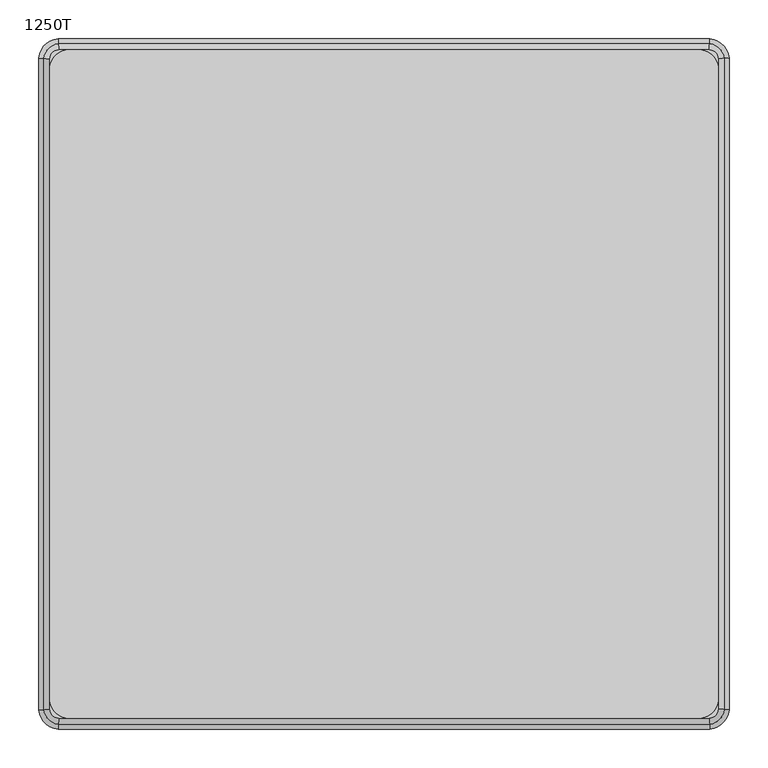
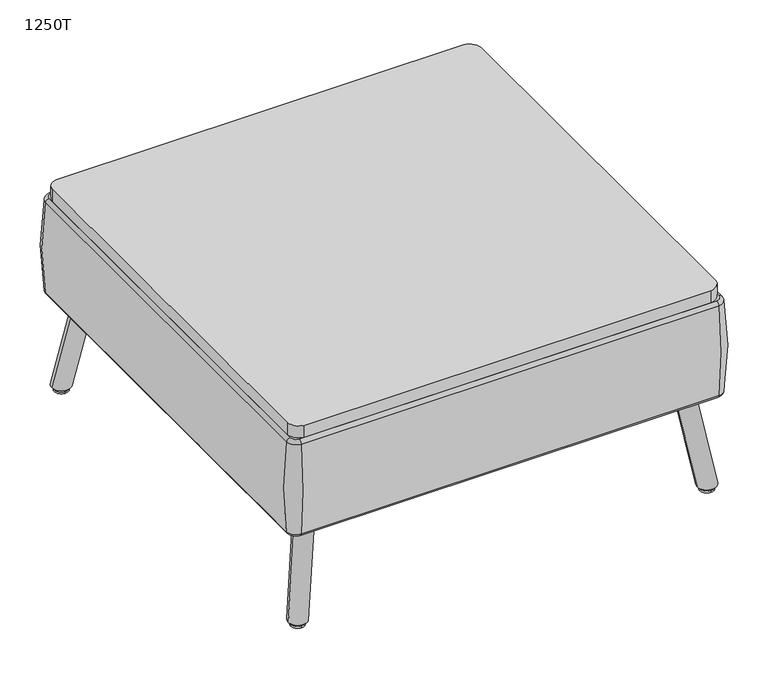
"""IFC4 building model written with IfcOpenShell, lengths in millimetres: furniture geometry, Laguna-Square_Ottomans-With_Legs-ERG : 1250T."""

from ifc_helpers import new_model, si_unit, point, frame, frame_2d, origin, place, context, project, spatial, polyline, circle_curve, ellipse_curve, trimmed, segment, composite_curve, outline, extrude, source, transform, mapped, element, save
from ifc_brep_helpers import plane_surface, cylinder_surface, revolved_surface, spline_surface, advanced_brep


def furniture_1250t_16d70e3b(model_context):
    return source(origin(), model_context, "Body", "SolidModel", [
        extrude(outline(composite_curve([segment(trimmed(circle_curve(frame_2d((-3953.8272587, 525.2409326)), 25.4), [point((-3928.6901244, 521.5961449))], [point((-3950.182471, 500.1037983))], False, "CARTESIAN"), True, "CONTINUOUS"), segment(trimmed(circle_curve(frame_2d((-4357.9421763, 6693.0859155)), 6206.3915024), [point((-3950.182471, 500.1037983))], [point((-4765.7018816, 500.1037983))], False, "CARTESIAN"), True, "CONTINUOUS"), segment(trimmed(circle_curve(frame_2d((-4762.0570939, 525.2409326)), 25.4), [point((-4765.7018816, 500.1037983))], [point((-4787.1942282, 521.5961449))], False, "CARTESIAN"), True, "CONTINUOUS"), segment(trimmed(circle_curve(frame_2d((1405.787889, 929.3558502)), 6206.3915024), [point((-4787.1942282, 521.5961449))], [point((-4787.1942282, 1337.1155555))], False, "CARTESIAN"), True, "CONTINUOUS"), segment(trimmed(circle_curve(frame_2d((-4762.0570939, 1333.4707677)), 25.4), [point((-4787.1942282, 1337.1155555))], [point((-4765.7018816, 1358.6079021))], False, "CARTESIAN"), True, "CONTINUOUS"), segment(trimmed(circle_curve(frame_2d((-4357.9421763, -4834.3742152)), 6206.3915024), [point((-4765.7018816, 1358.6079021))], [point((-3950.182471, 1358.6079021))], False, "CARTESIAN"), True, "CONTINUOUS"), segment(trimmed(circle_curve(frame_2d((-3953.8272587, 1333.4707677)), 25.4), [point((-3950.182471, 1358.6079021))], [point((-3928.6901244, 1337.1155555))], False, "CARTESIAN"), True, "CONTINUOUS"), segment(trimmed(circle_curve(frame_2d((-10121.6722416, 929.3558502)), 6206.3915024), [point((-3928.6901244, 1337.1155555))], [point((-3928.6901244, 521.5961449))], False, "CARTESIAN"), True, "CONTINUOUS")], self_intersect=False)), frame((0.0, 0.0, 406.4), z_axis=(0.0, 0.0, 1.0), x_axis=(1.0, 0.0, 0.0)), (0.0, 0.0, 1.0), 25.4),
        advanced_brep(
        [(-4775.5733418, 1358.6509177, 406.4), (-4787.2364147, 1346.9878465, 406.4), (-4787.2364147, 511.7238539, 406.4), (-4775.5733418, 500.0607827, 406.4), (-3940.3102369, 500.0608348, 406.4), (-3928.6471657, 511.723906, 406.4), (-3928.6471657, 1346.9877943, 406.4), (-3940.3102369, 1358.6508656, 406.4), (-4787.2364147, 1346.9878465, 203.2), (-4775.5733418, 1358.6509177, 203.2), (-3940.3102369, 1358.6508656, 203.2), (-3928.6471657, 1346.9877943, 203.2), (-3928.6471657, 511.723906, 203.2), (-3940.3102369, 500.0608348, 203.2), (-4775.5733418, 500.0607827, 203.2), (-4787.2364147, 511.7238539, 203.2), (-4794.7723063, 1347.4949959, 399.7887299), (-4776.0804902, 1366.1868094, 399.7887299), (-4776.0804902, 1366.1868094, 209.8112701), (-4794.7723063, 1347.4949959, 209.8112701), (-4794.7723063, 511.2167044, 209.8112701), (-4794.7723063, 511.2167044, 399.7887299), (-4776.0804902, 492.5248909, 209.8112701), (-4776.0804902, 492.5248909, 399.7887299), (-3939.8030877, 492.5249431, 209.8112701), (-3939.8030877, 492.5249431, 399.7887299), (-3921.111274, 511.2167567, 209.8112701), (-3921.111274, 511.2167567, 399.7887299), (-3921.111274, 1347.4949436, 209.8112701), (-3921.111274, 1347.4949436, 399.7887299), (-3939.8030877, 1366.1867573, 209.8112701), (-3939.8030877, 1366.1867573, 399.7887299)],
        [
            (0, 1, circle_curve(frame((-4774.7318104, 1346.1463133, 406.4), z_axis=(0.0, 0.0, 1.0), x_axis=(-0.0671458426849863, 0.9977431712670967, 0.0)), 12.5328889)),
            (1, 2, circle_curve(frame((1418.487889, 929.3558502, 406.4), z_axis=(0.0, 0.0, 1.0), x_axis=(-0.9977431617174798, 0.06714598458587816, 0.0)), 6219.7612991)),
            (2, 3, circle_curve(frame((-4774.7318104, 512.565387, 406.4), z_axis=(0.0, 0.0, 1.0), x_axis=(-0.9977431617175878, -0.06714598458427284, 0.0)), 12.5328889)),
            (3, 4, circle_curve(frame((-4357.9421763, 6705.7859155, 406.4), z_axis=(0.0, 0.0, 1.0), x_axis=(-0.06714584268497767, -0.9977431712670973, 0.0)), 6219.7620706)),
            (4, 5, circle_curve(frame((-3941.1517699, 512.565439, 406.4), z_axis=(0.0, 0.0, 1.0), x_axis=(0.06714596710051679, -0.9977431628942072, 0.0)), 12.5328889)),
            (5, 6, circle_curve(frame((-10134.3722416, 929.3558502, 406.4), z_axis=(0.0, 0.0, 1.0), x_axis=(0.9977431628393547, -0.06714596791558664, 0.0)), 6219.7620661)),
            (6, 7, circle_curve(frame((-3941.1517699, 1346.1462613, 406.4), z_axis=(0.0, 0.0, 1.0), x_axis=(0.9977431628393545, 0.06714596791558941, 0.0)), 12.5328889)),
            (7, 0, circle_curve(frame((-4357.9421763, -4847.0742152, 406.4), z_axis=(0.0, 0.0, 1.0), x_axis=(0.06714596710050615, 0.9977431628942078, 0.0)), 6219.7620706)),
            (8, 9, circle_curve(frame((-4774.7318104, 1346.1463133, 203.2), z_axis=(0.0, 0.0, -1.0), x_axis=(-0.0671458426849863, 0.9977431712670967, 0.0)), 12.5328889)),
            (9, 10, circle_curve(frame((-4357.9421763, -4847.0742152, 203.2), z_axis=(0.0, 0.0, -1.0), x_axis=(0.06714596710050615, 0.9977431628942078, 0.0)), 6219.7620706)),
            (10, 11, circle_curve(frame((-3941.1517699, 1346.1462613, 203.2), z_axis=(0.0, 0.0, -1.0), x_axis=(0.9977431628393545, 0.06714596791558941, 0.0)), 12.5328889)),
            (11, 12, circle_curve(frame((-10134.3722416, 929.3558502, 203.2), z_axis=(0.0, 0.0, -1.0), x_axis=(0.9977431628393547, -0.06714596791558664, 0.0)), 6219.7620661)),
            (12, 13, circle_curve(frame((-3941.1517699, 512.565439, 203.2), z_axis=(0.0, 0.0, -1.0), x_axis=(0.06714596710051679, -0.9977431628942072, 0.0)), 12.5328889)),
            (13, 14, circle_curve(frame((-4357.9421763, 6705.7859155, 203.2), z_axis=(0.0, 0.0, -1.0), x_axis=(-0.06714584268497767, -0.9977431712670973, 0.0)), 6219.7620706)),
            (14, 15, circle_curve(frame((-4774.7318104, 512.565387, 203.2), z_axis=(0.0, 0.0, -1.0), x_axis=(-0.9977431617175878, -0.06714598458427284, 0.0)), 12.5328889)),
            (15, 8, circle_curve(frame((1418.487889, 929.3558502, 203.2), z_axis=(0.0, 0.0, -1.0), x_axis=(-0.9977431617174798, 0.06714598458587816, 0.0)), 6219.7612991)),
            (16, 17, circle_curve(frame((-4774.7318104, 1346.1463133, 399.7887299), z_axis=(0.0, 0.0, -1.0), x_axis=(-0.0671458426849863, 0.9977431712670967, 0.0)), 20.0858264)),
            (17, 18, circle_curve(frame((-4728.3240206, 656.5570022, 304.8), z_axis=(-0.9977431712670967, -0.06714584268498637, 0.0), x_axis=(0.06714584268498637, -0.9977431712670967, 0.0)), 717.55)),
            (18, 19, circle_curve(frame((-4774.7318104, 1346.1463133, 209.8112701), z_axis=(0.0, 0.0, 1.0), x_axis=(-0.0671458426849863, 0.9977431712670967, 0.0)), 20.0858264)),
            (19, 16, circle_curve(frame((-4085.1425059, 1299.7384254, 304.8), z_axis=(0.06714598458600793, 0.997743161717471, 0.0), x_axis=(0.997743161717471, -0.06714598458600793, 0.0)), 717.55)),
            (16, 1, circle_curve(frame((-4787.2364147, 1346.9878465, 398.78), z_axis=(0.06714598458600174, 0.9977431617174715, 0.0), x_axis=(0.9977431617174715, -0.06714598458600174, 0.0)), 7.62)),
            (0, 17, circle_curve(frame((-4775.5733418, 1358.6509177, 398.78), z_axis=(-0.9977431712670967, -0.06714584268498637, 0.0), x_axis=(0.06714584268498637, -0.9977431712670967, 0.0)), 7.62)),
            (18, 9, circle_curve(frame((-4775.5733418, 1358.6509177, 210.82), z_axis=(-0.9977431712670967, -0.06714584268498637, 0.0), x_axis=(0.06714584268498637, -0.9977431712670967, 0.0)), 7.62)),
            (8, 19, circle_curve(frame((-4787.2364147, 1346.9878465, 210.82), z_axis=(0.06714598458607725, 0.9977431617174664, 0.0), x_axis=(0.9977431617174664, -0.06714598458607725, 0.0)), 7.62)),
            (19, 20, circle_curve(frame((1418.487889, 929.3558502, 209.8112701), z_axis=(0.0, 0.0, 1.0), x_axis=(-0.9977431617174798, 0.06714598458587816, 0.0)), 6227.3142365)),
            (20, 21, circle_curve(frame((-4085.1425059, 558.9732749, 304.8), z_axis=(-0.06714598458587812, 0.9977431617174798, 0.0), x_axis=(0.9977431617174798, 0.06714598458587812, 0.0)), 717.55)),
            (21, 16, circle_curve(frame((1418.487889, 929.3558502, 399.7887299), z_axis=(0.0, 0.0, -1.0), x_axis=(-0.9977431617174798, 0.06714598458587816, 0.0)), 6227.3142365)),
            (21, 2, circle_curve(frame((-4787.2364147, 511.7238539, 398.78), z_axis=(-0.06714598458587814, 0.9977431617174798, 0.0), x_axis=(0.9977431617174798, 0.06714598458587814, 0.0)), 7.62)),
            (15, 20, circle_curve(frame((-4787.2364147, 511.7238539, 210.82), z_axis=(-0.06714598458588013, 0.9977431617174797, 0.0), x_axis=(0.9977431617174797, 0.06714598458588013, 0.0)), 7.62)),
            (20, 22, circle_curve(frame((-4774.7318104, 512.565387, 209.8112701), z_axis=(0.0, 0.0, 1.0), x_axis=(-0.9977431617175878, -0.06714598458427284, 0.0)), 20.0858264)),
            (22, 23, circle_curve(frame((-4728.3240206, 1202.1546981, 304.8), z_axis=(-0.9977431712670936, 0.06714584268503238, 0.0), x_axis=(0.06714584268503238, 0.9977431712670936, 0.0)), 717.55)),
            (23, 21, circle_curve(frame((-4774.7318104, 512.565387, 399.7887299), z_axis=(0.0, 0.0, -1.0), x_axis=(-0.9977431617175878, -0.06714598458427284, 0.0)), 20.0858264)),
            (23, 3, circle_curve(frame((-4775.5733418, 500.0607827, 398.78), z_axis=(-0.9977431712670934, 0.0671458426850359, 0.0), x_axis=(0.0671458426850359, 0.9977431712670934, 0.0)), 7.62)),
            (14, 22, circle_curve(frame((-4775.5733418, 500.0607827, 210.82), z_axis=(-0.9977431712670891, 0.06714584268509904, 0.0), x_axis=(0.06714584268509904, 0.9977431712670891, 0.0)), 7.62)),
            (22, 24, circle_curve(frame((-4357.9421763, 6705.7859155, 209.8112701), z_axis=(0.0, 0.0, 1.0), x_axis=(-0.06714584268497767, -0.9977431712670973, 0.0)), 6227.315008)),
            (24, 25, circle_curve(frame((-3987.5596457, 1202.1547443, 304.8), z_axis=(-0.9977431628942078, -0.06714596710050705, 0.0), x_axis=(-0.06714596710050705, 0.9977431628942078, 0.0)), 717.55)),
            (25, 23, circle_curve(frame((-4357.9421763, 6705.7859155, 399.7887299), z_axis=(0.0, 0.0, -1.0), x_axis=(-0.06714584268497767, -0.9977431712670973, 0.0)), 6227.315008)),
            (25, 4, circle_curve(frame((-3940.3102369, 500.0608348, 398.78), z_axis=(-0.9977431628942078, -0.06714596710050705, 0.0), x_axis=(-0.06714596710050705, 0.9977431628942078, 0.0)), 7.62)),
            (13, 24, circle_curve(frame((-3940.3102369, 500.0608348, 210.82), z_axis=(-0.9977431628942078, -0.06714596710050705, 0.0), x_axis=(-0.06714596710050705, 0.9977431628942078, 0.0)), 7.62)),
            (24, 26, circle_curve(frame((-3941.1517699, 512.565439, 209.8112701), z_axis=(0.0, 0.0, 1.0), x_axis=(0.06714596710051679, -0.9977431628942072, 0.0)), 20.0858264)),
            (26, 27, circle_curve(frame((-4630.7410752, 558.9733154, 304.8), z_axis=(-0.06714596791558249, -0.997743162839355, 0.0), x_axis=(-0.997743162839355, 0.06714596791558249, 0.0)), 717.55)),
            (27, 25, circle_curve(frame((-3941.1517699, 512.565439, 399.7887299), z_axis=(0.0, 0.0, -1.0), x_axis=(0.06714596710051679, -0.9977431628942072, 0.0)), 20.0858264)),
            (27, 5, circle_curve(frame((-3928.6471657, 511.723906, 398.78), z_axis=(-0.06714596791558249, -0.997743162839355, 0.0), x_axis=(-0.997743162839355, 0.06714596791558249, 0.0)), 7.62)),
            (12, 26, circle_curve(frame((-3928.6471657, 511.723906, 210.82), z_axis=(-0.06714596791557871, -0.9977431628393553, 0.0), x_axis=(-0.9977431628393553, 0.06714596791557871, 0.0)), 7.62)),
            (26, 28, circle_curve(frame((-10134.3722416, 929.3558502, 209.8112701), z_axis=(0.0, 0.0, 1.0), x_axis=(0.9977431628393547, -0.06714596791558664, 0.0)), 6227.3150036)),
            (28, 29, circle_curve(frame((-4630.7410752, 1299.738385, 304.8), z_axis=(0.06714596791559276, -0.9977431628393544, 0.0), x_axis=(-0.9977431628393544, -0.06714596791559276, 0.0)), 717.55)),
            (29, 27, circle_curve(frame((-10134.3722416, 929.3558502, 399.7887299), z_axis=(0.0, 0.0, -1.0), x_axis=(0.9977431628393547, -0.06714596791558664, 0.0)), 6227.3150036)),
            (29, 6, circle_curve(frame((-3928.6471657, 1346.9877943, 398.78), z_axis=(0.06714596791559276, -0.9977431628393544, 0.0), x_axis=(-0.9977431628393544, -0.06714596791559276, 0.0)), 7.62)),
            (11, 28, circle_curve(frame((-3928.6471657, 1346.9877943, 210.82), z_axis=(0.06714596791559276, -0.9977431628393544, 0.0), x_axis=(-0.9977431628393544, -0.06714596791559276, 0.0)), 7.62)),
            (28, 30, circle_curve(frame((-3941.1517699, 1346.1462613, 209.8112701), z_axis=(0.0, 0.0, 1.0), x_axis=(0.9977431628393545, 0.06714596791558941, 0.0)), 20.0858264)),
            (30, 31, circle_curve(frame((-3987.5596457, 656.556956, 304.8), z_axis=(0.9977431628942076, -0.06714596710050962, 0.0), x_axis=(-0.06714596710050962, -0.9977431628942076, 0.0)), 717.55)),
            (31, 29, circle_curve(frame((-3941.1517699, 1346.1462613, 399.7887299), z_axis=(0.0, 0.0, -1.0), x_axis=(0.9977431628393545, 0.06714596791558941, 0.0)), 20.0858264)),
            (31, 7, circle_curve(frame((-3940.3102369, 1358.6508656, 398.78), z_axis=(0.9977431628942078, -0.06714596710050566, 0.0), x_axis=(-0.06714596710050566, -0.9977431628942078, 0.0)), 7.62)),
            (10, 30, circle_curve(frame((-3940.3102369, 1358.6508656, 210.82), z_axis=(0.9977431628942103, -0.06714596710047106, 0.0), x_axis=(-0.06714596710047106, -0.9977431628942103, 0.0)), 7.62)),
            (17, 31, circle_curve(frame((-4357.9421763, -4847.0742152, 399.7887299), z_axis=(0.0, 0.0, -1.0), x_axis=(0.06714596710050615, 0.9977431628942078, 0.0)), 6227.315008)),
            (30, 18, circle_curve(frame((-4357.9421763, -4847.0742152, 209.8112701), z_axis=(0.0, 0.0, 1.0), x_axis=(0.06714596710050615, 0.9977431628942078, 0.0)), 6227.315008)),
        ],
        [
            plane_surface(frame((-4762.1989215, 1346.1463133, 406.4), z_axis=(0.0, 0.0, 1.0), x_axis=(0.0, 1.0, 0.0))),
            plane_surface(frame((-4762.1989215, 1346.1463133, 203.2), z_axis=(0.0, 0.0, -1.0), x_axis=(0.0, -1.0, 0.0))),
            revolved_surface(trimmed(ellipse_curve(frame((-4728.3240206, 656.5570022, 304.8), z_axis=(0.9977431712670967, 0.06714584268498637, 0.0), x_axis=(0.06714584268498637, -0.9977431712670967, 0.0)), 717.55, 717.55), [point((-4776.0804902, 1366.1868094, 209.8112701))], [point((-4776.0804902, 1366.1868094, 399.7887299))], True, "CARTESIAN"), (-4774.7318104, 1346.1463133, 0.0), (0.0, 0.0, 1.0)),
            revolved_surface(trimmed(ellipse_curve(frame((-4775.5733418, 1358.6509177, 398.78), z_axis=(0.9977431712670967, 0.06714584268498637, 0.0), x_axis=(0.06714584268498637, -0.9977431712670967, 0.0)), 7.62, 7.62), [point((-4776.0804902, 1366.1868094, 399.7887299))], [point((-4775.5733418, 1358.6509177, 406.4))], True, "CARTESIAN"), (-4774.7318104, 1346.1463133, 0.0), (0.0, 0.0, 1.0)),
            revolved_surface(trimmed(ellipse_curve(frame((-4775.5733418, 1358.6509177, 210.82), z_axis=(0.9977431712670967, 0.06714584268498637, 0.0), x_axis=(0.06714584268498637, -0.9977431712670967, 0.0)), 7.62, 7.62), [point((-4775.5733418, 1358.6509177, 203.2))], [point((-4776.0804902, 1366.1868094, 209.8112701))], True, "CARTESIAN"), (-4774.7318104, 1346.1463133, 0.0), (0.0, 0.0, 1.0)),
            revolved_surface(trimmed(ellipse_curve(frame((-4085.1425059, 1299.7384254, 304.8), z_axis=(0.06714598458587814, 0.9977431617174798, 0.0), x_axis=(0.9977431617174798, -0.06714598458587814, 0.0)), 717.55, 717.55), [point((-4794.7723063, 1347.4949959, 209.8112701))], [point((-4794.7723063, 1347.4949959, 399.7887299))], True, "CARTESIAN"), (1418.487889, 929.3558502, 0.0), (0.0, 0.0, 1.0)),
            revolved_surface(trimmed(ellipse_curve(frame((-4787.2364147, 1346.9878465, 398.78), z_axis=(0.06714598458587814, 0.9977431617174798, 0.0), x_axis=(0.9977431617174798, -0.06714598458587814, 0.0)), 7.62, 7.62), [point((-4794.7723063, 1347.4949959, 399.7887299))], [point((-4787.2364147, 1346.9878465, 406.4))], True, "CARTESIAN"), (1418.487889, 929.3558502, 0.0), (0.0, 0.0, 1.0)),
            revolved_surface(trimmed(ellipse_curve(frame((-4787.2364147, 1346.9878465, 210.82), z_axis=(0.06714598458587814, 0.9977431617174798, 0.0), x_axis=(0.9977431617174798, -0.06714598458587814, 0.0)), 7.62, 7.62), [point((-4787.2364147, 1346.9878465, 203.2))], [point((-4794.7723063, 1347.4949959, 209.8112701))], True, "CARTESIAN"), (1418.487889, 929.3558502, 0.0), (0.0, 0.0, 1.0)),
            revolved_surface(trimmed(ellipse_curve(frame((-4085.1425059, 558.9732749, 304.8), z_axis=(-0.06714598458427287, 0.9977431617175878, 0.0), x_axis=(0.9977431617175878, 0.06714598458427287, 0.0)), 717.55, 717.55), [point((-4794.7723063, 511.2167044, 209.8112701))], [point((-4794.7723063, 511.2167044, 399.7887299))], True, "CARTESIAN"), (-4774.7318104, 512.565387, 0.0), (0.0, 0.0, 1.0)),
            revolved_surface(trimmed(ellipse_curve(frame((-4787.2364147, 511.7238539, 398.78), z_axis=(-0.06714598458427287, 0.9977431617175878, 0.0), x_axis=(0.9977431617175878, 0.06714598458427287, 0.0)), 7.62, 7.62), [point((-4794.7723063, 511.2167044, 399.7887299))], [point((-4787.2364147, 511.7238539, 406.4))], True, "CARTESIAN"), (-4774.7318104, 512.565387, 0.0), (0.0, 0.0, 1.0)),
            revolved_surface(trimmed(ellipse_curve(frame((-4787.2364147, 511.7238539, 210.82), z_axis=(-0.06714598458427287, 0.9977431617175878, 0.0), x_axis=(0.9977431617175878, 0.06714598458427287, 0.0)), 7.62, 7.62), [point((-4787.2364147, 511.7238539, 203.2))], [point((-4794.7723063, 511.2167044, 209.8112701))], True, "CARTESIAN"), (-4774.7318104, 512.565387, 0.0), (0.0, 0.0, 1.0)),
            revolved_surface(trimmed(ellipse_curve(frame((-4728.3240206, 1202.1546981, 304.8), z_axis=(-0.9977431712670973, 0.06714584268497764, 0.0), x_axis=(0.06714584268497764, 0.9977431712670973, 0.0)), 717.55, 717.55), [point((-4776.0804902, 492.5248909, 209.8112701))], [point((-4776.0804902, 492.5248909, 399.7887299))], True, "CARTESIAN"), (-4357.9421763, 6705.7859155, 0.0), (0.0, 0.0, 1.0)),
            revolved_surface(trimmed(ellipse_curve(frame((-4775.5733418, 500.0607827, 398.78), z_axis=(-0.9977431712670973, 0.06714584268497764, 0.0), x_axis=(0.06714584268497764, 0.9977431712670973, 0.0)), 7.62, 7.62), [point((-4776.0804902, 492.5248909, 399.7887299))], [point((-4775.5733418, 500.0607827, 406.4))], True, "CARTESIAN"), (-4357.9421763, 6705.7859155, 0.0), (0.0, 0.0, 1.0)),
            revolved_surface(trimmed(ellipse_curve(frame((-4775.5733418, 500.0607827, 210.82), z_axis=(-0.9977431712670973, 0.06714584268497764, 0.0), x_axis=(0.06714584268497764, 0.9977431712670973, 0.0)), 7.62, 7.62), [point((-4775.5733418, 500.0607827, 203.2))], [point((-4776.0804902, 492.5248909, 209.8112701))], True, "CARTESIAN"), (-4357.9421763, 6705.7859155, 0.0), (0.0, 0.0, 1.0)),
            revolved_surface(trimmed(ellipse_curve(frame((-3987.5596457, 1202.1547443, 304.8), z_axis=(-0.9977431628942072, -0.06714596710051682, 0.0), x_axis=(-0.06714596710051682, 0.9977431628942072, 0.0)), 717.55, 717.55), [point((-3939.8030877, 492.5249431, 209.8112701))], [point((-3939.8030877, 492.5249431, 399.7887299))], True, "CARTESIAN"), (-3941.1517699, 512.565439, 0.0), (0.0, 0.0, 1.0)),
            revolved_surface(trimmed(ellipse_curve(frame((-3940.3102369, 500.0608348, 398.78), z_axis=(-0.9977431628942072, -0.06714596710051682, 0.0), x_axis=(-0.06714596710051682, 0.9977431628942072, 0.0)), 7.62, 7.62), [point((-3939.8030877, 492.5249431, 399.7887299))], [point((-3940.3102369, 500.0608348, 406.4))], True, "CARTESIAN"), (-3941.1517699, 512.565439, 0.0), (0.0, 0.0, 1.0)),
            revolved_surface(trimmed(ellipse_curve(frame((-3940.3102369, 500.0608348, 210.82), z_axis=(-0.9977431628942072, -0.06714596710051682, 0.0), x_axis=(-0.06714596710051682, 0.9977431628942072, 0.0)), 7.62, 7.62), [point((-3940.3102369, 500.0608348, 203.2))], [point((-3939.8030877, 492.5249431, 209.8112701))], True, "CARTESIAN"), (-3941.1517699, 512.565439, 0.0), (0.0, 0.0, 1.0)),
            revolved_surface(trimmed(ellipse_curve(frame((-4630.7410752, 558.9733154, 304.8), z_axis=(-0.06714596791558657, -0.9977431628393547, 0.0), x_axis=(-0.9977431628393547, 0.06714596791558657, 0.0)), 717.55, 717.55), [point((-3921.111274, 511.2167567, 209.8112701))], [point((-3921.111274, 511.2167567, 399.7887299))], True, "CARTESIAN"), (-10134.3722416, 929.3558502, 0.0), (0.0, 0.0, 1.0)),
            revolved_surface(trimmed(ellipse_curve(frame((-3928.6471657, 511.723906, 398.78), z_axis=(-0.06714596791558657, -0.9977431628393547, 0.0), x_axis=(-0.9977431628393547, 0.06714596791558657, 0.0)), 7.62, 7.62), [point((-3921.111274, 511.2167567, 399.7887299))], [point((-3928.6471657, 511.723906, 406.4))], True, "CARTESIAN"), (-10134.3722416, 929.3558502, 0.0), (0.0, 0.0, 1.0)),
            revolved_surface(trimmed(ellipse_curve(frame((-3928.6471657, 511.723906, 210.82), z_axis=(-0.06714596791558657, -0.9977431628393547, 0.0), x_axis=(-0.9977431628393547, 0.06714596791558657, 0.0)), 7.62, 7.62), [point((-3928.6471657, 511.723906, 203.2))], [point((-3921.111274, 511.2167567, 209.8112701))], True, "CARTESIAN"), (-10134.3722416, 929.3558502, 0.0), (0.0, 0.0, 1.0)),
            revolved_surface(trimmed(ellipse_curve(frame((-4630.7410752, 1299.738385, 304.8), z_axis=(0.06714596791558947, -0.9977431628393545, 0.0), x_axis=(-0.9977431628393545, -0.06714596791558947, 0.0)), 717.55, 717.55), [point((-3921.111274, 1347.4949436, 209.8112701))], [point((-3921.111274, 1347.4949436, 399.7887299))], True, "CARTESIAN"), (-3941.1517699, 1346.1462613, 0.0), (0.0, 0.0, 1.0)),
            revolved_surface(trimmed(ellipse_curve(frame((-3928.6471657, 1346.9877943, 398.78), z_axis=(0.06714596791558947, -0.9977431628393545, 0.0), x_axis=(-0.9977431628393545, -0.06714596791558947, 0.0)), 7.62, 7.62), [point((-3921.111274, 1347.4949436, 399.7887299))], [point((-3928.6471657, 1346.9877943, 406.4))], True, "CARTESIAN"), (-3941.1517699, 1346.1462613, 0.0), (0.0, 0.0, 1.0)),
            revolved_surface(trimmed(ellipse_curve(frame((-3928.6471657, 1346.9877943, 210.82), z_axis=(0.06714596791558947, -0.9977431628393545, 0.0), x_axis=(-0.9977431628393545, -0.06714596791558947, 0.0)), 7.62, 7.62), [point((-3928.6471657, 1346.9877943, 203.2))], [point((-3921.111274, 1347.4949436, 209.8112701))], True, "CARTESIAN"), (-3941.1517699, 1346.1462613, 0.0), (0.0, 0.0, 1.0)),
            revolved_surface(trimmed(ellipse_curve(frame((-3987.5596457, 656.556956, 304.8), z_axis=(0.9977431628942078, -0.06714596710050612, 0.0), x_axis=(-0.06714596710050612, -0.9977431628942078, 0.0)), 717.55, 717.55), [point((-3939.8030877, 1366.1867573, 209.8112701))], [point((-3939.8030877, 1366.1867573, 399.7887299))], True, "CARTESIAN"), (-4357.9421763, -4847.0742152, 0.0), (0.0, 0.0, 1.0)),
            revolved_surface(trimmed(ellipse_curve(frame((-3940.3102369, 1358.6508656, 398.78), z_axis=(0.9977431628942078, -0.06714596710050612, 0.0), x_axis=(-0.06714596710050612, -0.9977431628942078, 0.0)), 7.62, 7.62), [point((-3939.8030877, 1366.1867573, 399.7887299))], [point((-3940.3102369, 1358.6508656, 406.4))], True, "CARTESIAN"), (-4357.9421763, -4847.0742152, 0.0), (0.0, 0.0, 1.0)),
            revolved_surface(trimmed(ellipse_curve(frame((-3940.3102369, 1358.6508656, 210.82), z_axis=(0.9977431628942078, -0.06714596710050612, 0.0), x_axis=(-0.06714596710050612, -0.9977431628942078, 0.0)), 7.62, 7.62), [point((-3940.3102369, 1358.6508656, 203.2))], [point((-3939.8030877, 1366.1867573, 209.8112701))], True, "CARTESIAN"), (-4357.9421763, -4847.0742152, 0.0), (0.0, 0.0, 1.0)),
        ],
        [
            (0, [[1, 2, 3, 4, 5, 6, 7, 8]]),
            (1, [[9, 10, 11, 12, 13, 14, 15, 16]]),
            (2, [[17, 18, 19, 20]]),
            (3, [[-17, 21, -1, 22]]),
            (4, [[-19, 23, -9, 24]]),
            (5, [[-20, 25, 26, 27]]),
            (6, [[-21, -27, 28, -2]]),
            (7, [[-24, -16, 29, -25]]),
            (8, [[-26, 30, 31, 32]]),
            (9, [[-28, -32, 33, -3]]),
            (10, [[-29, -15, 34, -30]]),
            (11, [[-31, 35, 36, 37]]),
            (12, [[-33, -37, 38, -4]]),
            (13, [[-34, -14, 39, -35]]),
            (14, [[-36, 40, 41, 42]]),
            (15, [[-38, -42, 43, -5]]),
            (16, [[-39, -13, 44, -40]]),
            (17, [[-41, 45, 46, 47]]),
            (18, [[-43, -47, 48, -6]]),
            (19, [[-44, -12, 49, -45]]),
            (20, [[-46, 50, 51, 52]]),
            (21, [[-48, -52, 53, -7]]),
            (22, [[-49, -11, 54, -50]]),
            (23, [[-18, 55, -51, 56]]),
            (24, [[-22, -8, -53, -55]]),
            (25, [[-23, -56, -54, -10]]),
        ],
    ),
        extrude(outline(composite_curve([segment(trimmed(circle_curve(frame_2d((-4730.6187381, 1345.1376413)), 5.08), [point((-4734.2108405, 1348.7297438))], [point((-4727.0266356, 1348.7297438))], False, "CARTESIAN"), True, "CONTINUOUS"), segment(polyline([(-4727.0266356, 1348.7297438), (-4698.289816, 1319.9929242)]), True, "CONTINUOUS"), segment(trimmed(circle_curve(frame_2d((-4701.8819185, 1316.4008217)), 5.08), [point((-4698.289816, 1319.9929242))], [point((-4698.289816, 1312.8087193))], False, "CARTESIAN"), True, "CONTINUOUS"), segment(polyline([(-4698.289816, 1312.8087193), (-4741.3950454, 1269.7034899)]), True, "CONTINUOUS"), segment(trimmed(circle_curve(frame_2d((-4744.9871479, 1273.2955923)), 5.08), [point((-4741.3950454, 1269.7034899))], [point((-4748.5792503, 1269.7034899))], False, "CARTESIAN"), True, "CONTINUOUS"), segment(polyline([(-4748.5792503, 1269.7034899), (-4777.3160699, 1298.4403095)]), True, "CONTINUOUS"), segment(trimmed(circle_curve(frame_2d((-4773.7239674, 1302.0324119)), 5.08), [point((-4777.3160699, 1298.4403095))], [point((-4777.3160699, 1305.6245144))], False, "CARTESIAN"), True, "CONTINUOUS"), segment(polyline([(-4777.3160699, 1305.6245144), (-4734.2108405, 1348.7297438)]), True, "CONTINUOUS")], self_intersect=False)), frame((0.0, 0.0, 200.66), z_axis=(0.0, 0.0, 1.0), x_axis=(1.0, 0.0, 0.0)), (0.0, 0.0, 1.0), 2.54),
        extrude(outline(composite_curve([segment(polyline([(-3981.6735121, 1348.7297438), (-3938.5682827, 1305.6245144)]), True, "CONTINUOUS"), segment(trimmed(circle_curve(frame_2d((-3942.1603852, 1302.0324119)), 5.08), [point((-3938.5682827, 1305.6245144))], [point((-3938.5682827, 1298.4403095))], False, "CARTESIAN"), True, "CONTINUOUS"), segment(polyline([(-3938.5682827, 1298.4403095), (-3967.3051023, 1269.7034899)]), True, "CONTINUOUS"), segment(trimmed(circle_curve(frame_2d((-3970.8972048, 1273.2955923)), 5.08), [point((-3967.3051023, 1269.7034899))], [point((-3974.4893072, 1269.7034899))], False, "CARTESIAN"), True, "CONTINUOUS"), segment(polyline([(-3974.4893072, 1269.7034899), (-4017.5945366, 1312.8087193)]), True, "CONTINUOUS"), segment(trimmed(circle_curve(frame_2d((-4014.0024341, 1316.4008217)), 5.08), [point((-4017.5945366, 1312.8087193))], [point((-4017.5945366, 1319.9929242))], False, "CARTESIAN"), True, "CONTINUOUS"), segment(polyline([(-4017.5945366, 1319.9929242), (-3988.857717, 1348.7297438)]), True, "CONTINUOUS"), segment(trimmed(circle_curve(frame_2d((-3985.2656145, 1345.1376413)), 5.08), [point((-3988.857717, 1348.7297438))], [point((-3981.6735121, 1348.7297438))], False, "CARTESIAN"), True, "CONTINUOUS")], self_intersect=False)), frame((0.0, 0.0, 200.66), z_axis=(0.0, 0.0, 1.0), x_axis=(1.0, 0.0, 0.0)), (0.0, 0.0, 1.0), 2.54),
        extrude(outline(composite_curve([segment(trimmed(circle_curve(frame_2d((-3942.1603852, 556.6792884)), 5.08), [point((-3938.5682827, 560.2713909))], [point((-3938.5682827, 553.087186))], False, "CARTESIAN"), True, "CONTINUOUS"), segment(polyline([(-3938.5682827, 553.087186), (-3981.6735121, 509.9819566)]), True, "CONTINUOUS"), segment(trimmed(circle_curve(frame_2d((-3985.2656145, 513.574059)), 5.08), [point((-3981.6735121, 509.9819566))], [point((-3988.857717, 509.9819566))], False, "CARTESIAN"), True, "CONTINUOUS"), segment(polyline([(-3988.857717, 509.9819566), (-4017.5945366, 538.7187762)]), True, "CONTINUOUS"), segment(trimmed(circle_curve(frame_2d((-4014.0024341, 542.3108786)), 5.08), [point((-4017.5945366, 538.7187762))], [point((-4017.5945366, 545.9029811))], False, "CARTESIAN"), True, "CONTINUOUS"), segment(polyline([(-4017.5945366, 545.9029811), (-3974.4893072, 589.0082105)]), True, "CONTINUOUS"), segment(trimmed(circle_curve(frame_2d((-3970.8972048, 585.416108)), 5.08), [point((-3974.4893072, 589.0082105))], [point((-3967.3051023, 589.0082105))], False, "CARTESIAN"), True, "CONTINUOUS"), segment(polyline([(-3967.3051023, 589.0082105), (-3938.5682827, 560.2713909)]), True, "CONTINUOUS")], self_intersect=False)), frame((0.0, 0.0, 200.66), z_axis=(0.0, 0.0, 1.0), x_axis=(1.0, 0.0, 0.0)), (0.0, 0.0, 1.0), 2.54),
        extrude(outline(composite_curve([segment(polyline([(-4741.3950454, 589.0082105), (-4698.289816, 545.9029811)]), True, "CONTINUOUS"), segment(trimmed(circle_curve(frame_2d((-4701.8819185, 542.3108786)), 5.08), [point((-4698.289816, 545.9029811))], [point((-4698.289816, 538.7187762))], False, "CARTESIAN"), True, "CONTINUOUS"), segment(polyline([(-4698.289816, 538.7187762), (-4727.0266356, 509.9819566)]), True, "CONTINUOUS"), segment(trimmed(circle_curve(frame_2d((-4730.6187381, 513.574059)), 5.08), [point((-4727.0266356, 509.9819566))], [point((-4734.2108405, 509.9819566))], False, "CARTESIAN"), True, "CONTINUOUS"), segment(polyline([(-4734.2108405, 509.9819566), (-4777.3160699, 553.087186)]), True, "CONTINUOUS"), segment(trimmed(circle_curve(frame_2d((-4773.7239674, 556.6792884)), 5.08), [point((-4777.3160699, 553.087186))], [point((-4777.3160699, 560.2713909))], False, "CARTESIAN"), True, "CONTINUOUS"), segment(polyline([(-4777.3160699, 560.2713909), (-4748.5792503, 589.0082105)]), True, "CONTINUOUS"), segment(trimmed(circle_curve(frame_2d((-4744.9871479, 585.416108)), 5.08), [point((-4748.5792503, 589.0082105))], [point((-4741.3950454, 589.0082105))], False, "CARTESIAN"), True, "CONTINUOUS")], self_intersect=False)), frame((0.0, 0.0, 200.66), z_axis=(0.0, 0.0, 1.0), x_axis=(1.0, 0.0, 0.0)), (0.0, 0.0, 1.0), 2.54),
        advanced_brep(
        [(-4767.5048436, 524.036231, 10.16), (-4767.5048436, 515.5501347, 10.16), (-4767.5048436, 515.5501347, 3.9615026), (-4767.5048436, 524.036231, 3.9615026), (-4767.5048436, 505.7148294, 3.9615026), (-4767.5048436, 533.8715363, 3.9615026), (-4767.5048436, 505.7148294, 0.0), (-4767.5048436, 533.8715363, 0.0), (-4767.5048436, 519.7931828, 0.0), (-4767.5048436, 519.7931828, 10.16)],
        [
            (0, 1, circle_curve(frame((-4767.5048436, 519.7931828, 10.16), z_axis=(0.0, 0.0, -1.0), x_axis=(0.0, -1.0, 0.0)), 4.2430482)),
            (1, 2),
            (2, 3, circle_curve(frame((-4767.5048436, 519.7931828, 3.9615026), z_axis=(0.0, 0.0, 1.0), x_axis=(0.0, -1.0, 0.0)), 4.2430482)),
            (3, 0),
            (1, 0, circle_curve(frame((-4767.5048436, 519.7931828, 10.16), z_axis=(0.0, 0.0, -1.0), x_axis=(0.0, -1.0, 0.0)), 4.2430482)),
            (3, 2, circle_curve(frame((-4767.5048436, 519.7931828, 3.9615026), z_axis=(0.0, 0.0, 1.0), x_axis=(0.0, -1.0, 0.0)), 4.2430482)),
            (2, 4),
            (4, 5, circle_curve(frame((-4767.5048436, 519.7931828, 3.9615026), z_axis=(0.0, 0.0, 1.0), x_axis=(0.0, -1.0, 0.0)), 14.0783534)),
            (5, 3),
            (5, 4, circle_curve(frame((-4767.5048436, 519.7931828, 3.9615026), z_axis=(0.0, 0.0, 1.0), x_axis=(0.0, -1.0, 0.0)), 14.0783534)),
            (4, 6),
            (6, 7, circle_curve(frame((-4767.5048436, 519.7931828, 0.0), z_axis=(0.0, 0.0, 1.0), x_axis=(0.0, -1.0, 0.0)), 14.0783534)),
            (7, 5),
            (7, 6, circle_curve(frame((-4767.5048436, 519.7931828, 0.0), z_axis=(0.0, 0.0, 1.0), x_axis=(0.0, -1.0, 0.0)), 14.0783534)),
            (6, 8),
            (8, 7),
            (9, 1),
            (0, 9),
        ],
        [
            cylinder_surface(frame((-4767.5048436, 519.7931828, 20.9252452), z_axis=(0.0, 0.0, 1.0), x_axis=(0.0, -1.0, 0.0)), 4.2430482),
            plane_surface(frame((-4767.5048436, 519.7931828, 3.9615026), z_axis=(0.0, 0.0, 1.0), x_axis=(0.0, -1.0, 0.0))),
            cylinder_surface(frame((-4767.5048436, 519.7931828, 20.9252452), z_axis=(0.0, 0.0, 1.0), x_axis=(0.0, -1.0, 0.0)), 14.0783534),
            plane_surface(frame((-4767.5048436, 519.7931828, 0.0), z_axis=(0.0, 0.0, -1.0), x_axis=(0.0, -1.0, 0.0))),
            plane_surface(frame((-4767.5048436, 519.7931828, 10.16), z_axis=(0.0, 0.0, 1.0), x_axis=(0.0, -1.0, 0.0))),
        ],
        [
            (0, [[1, 2, 3, 4]]),
            (0, [[5, -4, 6, -2]]),
            (1, [[-3, 7, 8, 9]]),
            (1, [[-6, -9, 10, -7]]),
            (2, [[-8, 11, 12, 13]]),
            (2, [[-10, -13, 14, -11]]),
            (3, [[-12, 15, 16]]),
            (3, [[-14, -16, -15]]),
            (4, [[17, -1, 18]]),
            (4, [[-18, -5, -17]]),
        ],
    ),
        advanced_brep(
        [(-4767.5048436, 1343.1615656, 3.9615026), (-4767.5048436, 1334.6754693, 3.9615026), (-4767.5048436, 1324.8401641, 3.9615026), (-4767.5048436, 1352.9968709, 3.9615026), (-4767.5048436, 1324.8401641, 0.0), (-4767.5048436, 1352.9968709, 0.0), (-4767.5048436, 1338.9185175, 0.0), (-4767.5048436, 1338.9185175, 10.16), (-4767.5048436, 1334.6754693, 10.16), (-4767.5048436, 1343.1615656, 10.16)],
        [
            (0, 1, circle_curve(frame((-4767.5048436, 1338.9185175, 3.9615026), z_axis=(0.0, 0.0, -1.0), x_axis=(0.0, -1.0, 0.0)), 4.2430481)),
            (1, 2),
            (2, 3, circle_curve(frame((-4767.5048436, 1338.9185175, 3.9615026), z_axis=(0.0, 0.0, 1.0), x_axis=(0.0, -1.0, 0.0)), 14.0783534)),
            (3, 0),
            (1, 0, circle_curve(frame((-4767.5048436, 1338.9185175, 3.9615026), z_axis=(0.0, 0.0, -1.0), x_axis=(0.0, -1.0, 0.0)), 4.2430481)),
            (3, 2, circle_curve(frame((-4767.5048436, 1338.9185175, 3.9615026), z_axis=(0.0, 0.0, 1.0), x_axis=(0.0, -1.0, 0.0)), 14.0783534)),
            (2, 4),
            (4, 5, circle_curve(frame((-4767.5048436, 1338.9185175, 0.0), z_axis=(0.0, 0.0, 1.0), x_axis=(0.0, -1.0, 0.0)), 14.0783534)),
            (5, 3),
            (5, 4, circle_curve(frame((-4767.5048436, 1338.9185175, 0.0), z_axis=(0.0, 0.0, 1.0), x_axis=(0.0, -1.0, 0.0)), 14.0783534)),
            (4, 6),
            (6, 5),
            (7, 8),
            (8, 9, circle_curve(frame((-4767.5048436, 1338.9185175, 10.16), z_axis=(0.0, 0.0, 1.0), x_axis=(0.0, -1.0, 0.0)), 4.2430481)),
            (9, 7),
            (9, 8, circle_curve(frame((-4767.5048436, 1338.9185175, 10.16), z_axis=(0.0, 0.0, 1.0), x_axis=(0.0, -1.0, 0.0)), 4.2430481)),
            (8, 1),
            (0, 9),
        ],
        [
            plane_surface(frame((-4767.5048436, 1338.9185175, 3.9615026), z_axis=(0.0, 0.0, 1.0), x_axis=(0.0, -1.0, 0.0))),
            cylinder_surface(frame((-4767.5048436, 1338.9185175, 29.21), z_axis=(0.0, 0.0, 1.0), x_axis=(0.0, -1.0, 0.0)), 14.0783534),
            plane_surface(frame((-4767.5048436, 1338.9185175, 0.0), z_axis=(0.0, 0.0, -1.0), x_axis=(0.0, -1.0, 0.0))),
            plane_surface(frame((-4767.5048436, 1338.9185175, 10.16), z_axis=(0.0, 0.0, 1.0), x_axis=(0.0, -1.0, 0.0))),
            cylinder_surface(frame((-4767.5048436, 1338.9185175, 29.21), z_axis=(0.0, 0.0, 1.0), x_axis=(0.0, -1.0, 0.0)), 4.2430481),
        ],
        [
            (0, [[1, 2, 3, 4]]),
            (0, [[5, -4, 6, -2]]),
            (1, [[-3, 7, 8, 9]]),
            (1, [[-6, -9, 10, -7]]),
            (2, [[-8, 11, 12]]),
            (2, [[-10, -12, -11]]),
            (3, [[13, 14, 15]]),
            (3, [[-15, 16, -13]]),
            (4, [[-14, 17, -1, 18]]),
            (4, [[-16, -18, -5, -17]]),
        ],
    ),
        advanced_brep(
        [(-3948.379509, 524.036231, 3.9615026), (-3948.379509, 515.5501347, 3.9615026), (-3948.379509, 515.5501347, 10.16), (-3948.379509, 524.036231, 10.16), (-3948.379509, 533.8715363, 3.9615026), (-3948.379509, 505.7148294, 3.9615026), (-3948.379509, 533.8715363, 0.0), (-3948.379509, 505.7148294, 0.0), (-3948.379509, 519.7931828, 0.0), (-3948.379509, 519.7931828, 10.16)],
        [
            (0, 1, circle_curve(frame((-3948.379509, 519.7931828, 3.9615026), z_axis=(0.0, 0.0, 1.0), x_axis=(0.0, -1.0, 0.0)), 4.2430482)),
            (1, 2),
            (2, 3, circle_curve(frame((-3948.379509, 519.7931828, 10.16), z_axis=(0.0, 0.0, -1.0), x_axis=(0.0, -1.0, 0.0)), 4.2430482)),
            (3, 0),
            (1, 0, circle_curve(frame((-3948.379509, 519.7931828, 3.9615026), z_axis=(0.0, 0.0, 1.0), x_axis=(0.0, -1.0, 0.0)), 4.2430482)),
            (3, 2, circle_curve(frame((-3948.379509, 519.7931828, 10.16), z_axis=(0.0, 0.0, -1.0), x_axis=(0.0, -1.0, 0.0)), 4.2430482)),
            (4, 5, circle_curve(frame((-3948.379509, 519.7931828, 3.9615026), z_axis=(0.0, 0.0, 1.0), x_axis=(0.0, -1.0, 0.0)), 14.0783534)),
            (5, 1),
            (0, 4),
            (5, 4, circle_curve(frame((-3948.379509, 519.7931828, 3.9615026), z_axis=(0.0, 0.0, 1.0), x_axis=(0.0, -1.0, 0.0)), 14.0783534)),
            (6, 7, circle_curve(frame((-3948.379509, 519.7931828, 0.0), z_axis=(0.0, 0.0, 1.0), x_axis=(0.0, -1.0, 0.0)), 14.0783534)),
            (7, 5),
            (4, 6),
            (7, 6, circle_curve(frame((-3948.379509, 519.7931828, 0.0), z_axis=(0.0, 0.0, 1.0), x_axis=(0.0, -1.0, 0.0)), 14.0783534)),
            (8, 7),
            (6, 8),
            (2, 9),
            (9, 3),
        ],
        [
            cylinder_surface(frame((-3948.379509, 519.7931828, 20.9252452), z_axis=(0.0, 0.0, -1.0), x_axis=(0.0, -1.0, 0.0)), 4.2430482),
            plane_surface(frame((-3948.379509, 519.7931828, 3.9615026), z_axis=(0.0, 0.0, 1.0), x_axis=(0.0, -1.0, 0.0))),
            cylinder_surface(frame((-3948.379509, 519.7931828, 20.9252452), z_axis=(0.0, 0.0, -1.0), x_axis=(0.0, -1.0, 0.0)), 14.0783534),
            plane_surface(frame((-3948.379509, 519.7931828, 0.0), z_axis=(0.0, 0.0, -1.0), x_axis=(0.0, -1.0, 0.0))),
            plane_surface(frame((-3948.379509, 519.7931828, 10.16), z_axis=(0.0, 0.0, 1.0), x_axis=(0.0, -1.0, 0.0))),
        ],
        [
            (0, [[1, 2, 3, 4]]),
            (0, [[5, -4, 6, -2]]),
            (1, [[7, 8, -1, 9]]),
            (1, [[10, -9, -5, -8]]),
            (2, [[11, 12, -7, 13]]),
            (2, [[14, -13, -10, -12]]),
            (3, [[15, -11, 16]]),
            (3, [[-16, -14, -15]]),
            (4, [[-3, 17, 18]]),
            (4, [[-6, -18, -17]]),
        ],
    ),
        advanced_brep(
        [(-3948.379509, 1352.9968709, 3.9615026), (-3948.379509, 1324.8401641, 3.9615026), (-3948.379509, 1334.6754693, 3.9615026), (-3948.379509, 1343.1615656, 3.9615026), (-3948.379509, 1352.9968709, 0.0), (-3948.379509, 1324.8401641, 0.0), (-3948.379509, 1338.9185175, 0.0), (-3948.379509, 1343.1615656, 10.16), (-3948.379509, 1334.6754693, 10.16), (-3948.379509, 1338.9185175, 10.16)],
        [
            (0, 1, circle_curve(frame((-3948.379509, 1338.9185175, 3.9615026), z_axis=(0.0, 0.0, 1.0), x_axis=(0.0, -1.0, 0.0)), 14.0783534)),
            (1, 2),
            (2, 3, circle_curve(frame((-3948.379509, 1338.9185175, 3.9615026), z_axis=(0.0, 0.0, -1.0), x_axis=(0.0, -1.0, 0.0)), 4.2430481)),
            (3, 0),
            (1, 0, circle_curve(frame((-3948.379509, 1338.9185175, 3.9615026), z_axis=(0.0, 0.0, 1.0), x_axis=(0.0, -1.0, 0.0)), 14.0783534)),
            (3, 2, circle_curve(frame((-3948.379509, 1338.9185175, 3.9615026), z_axis=(0.0, 0.0, -1.0), x_axis=(0.0, -1.0, 0.0)), 4.2430481)),
            (4, 5, circle_curve(frame((-3948.379509, 1338.9185175, 0.0), z_axis=(0.0, 0.0, 1.0), x_axis=(0.0, -1.0, 0.0)), 14.0783534)),
            (5, 1),
            (0, 4),
            (5, 4, circle_curve(frame((-3948.379509, 1338.9185175, 0.0), z_axis=(0.0, 0.0, 1.0), x_axis=(0.0, -1.0, 0.0)), 14.0783534)),
            (6, 5),
            (4, 6),
            (7, 8, circle_curve(frame((-3948.379509, 1338.9185175, 10.16), z_axis=(0.0, 0.0, 1.0), x_axis=(0.0, -1.0, 0.0)), 4.2430481)),
            (8, 9),
            (9, 7),
            (8, 7, circle_curve(frame((-3948.379509, 1338.9185175, 10.16), z_axis=(0.0, 0.0, 1.0), x_axis=(0.0, -1.0, 0.0)), 4.2430481)),
            (2, 8),
            (7, 3),
        ],
        [
            plane_surface(frame((-3948.379509, 1338.9185175, 3.9615026), z_axis=(0.0, 0.0, 1.0), x_axis=(0.0, -1.0, 0.0))),
            cylinder_surface(frame((-3948.379509, 1338.9185175, 29.21), z_axis=(0.0, 0.0, -1.0), x_axis=(0.0, -1.0, 0.0)), 14.0783534),
            plane_surface(frame((-3948.379509, 1338.9185175, 0.0), z_axis=(0.0, 0.0, -1.0), x_axis=(0.0, -1.0, 0.0))),
            plane_surface(frame((-3948.379509, 1338.9185175, 10.16), z_axis=(0.0, 0.0, 1.0), x_axis=(0.0, -1.0, 0.0))),
            cylinder_surface(frame((-3948.379509, 1338.9185175, 29.21), z_axis=(0.0, 0.0, -1.0), x_axis=(0.0, -1.0, 0.0)), 4.2430481),
        ],
        [
            (0, [[1, 2, 3, 4]]),
            (0, [[5, -4, 6, -2]]),
            (1, [[7, 8, -1, 9]]),
            (1, [[10, -9, -5, -8]]),
            (2, [[11, -7, 12]]),
            (2, [[-12, -10, -11]]),
            (3, [[13, 14, 15]]),
            (3, [[16, -15, -14]]),
            (4, [[-3, 17, -13, 18]]),
            (4, [[-6, -18, -16, -17]]),
        ],
    ),
        advanced_brep(
        [(-4718.748749, 549.5091293, 203.2), (-4756.8290453, 549.5091293, 203.2), (-4748.3889568, 519.8309276, 10.16), (-4786.5452409, 519.8309276, 10.16)],
        [
            (0, 1, circle_curve(frame((-4737.7888971, 549.5091293, 203.2), z_axis=(0.0, 0.0, 1.0), x_axis=(-1.0, 0.0, 0.0)), 19.0401482)),
            (1, 0, circle_curve(frame((-4737.7888971, 549.5091293, 203.2), z_axis=(0.0, 0.0, 1.0), x_axis=(-1.0, 0.0, 0.0)), 19.0401482)),
            (2, 3, circle_curve(frame((-4767.4670988, 519.8309276, 10.16), z_axis=(0.0, 0.0, -1.0), x_axis=(-1.0, 0.0, 0.0)), 19.078142)),
            (3, 2, circle_curve(frame((-4767.4670988, 519.8309276, 10.16), z_axis=(0.0, 0.0, -1.0), x_axis=(-1.0, 0.0, 0.0)), 19.078142)),
            (2, 0),
            (1, 3),
        ],
        [
            plane_surface(frame((-4737.7888971, 549.5091293, 203.2), z_axis=(0.0, 0.0, 1.0), x_axis=(0.0, 1.0, 0.0))),
            plane_surface(frame((-4767.4670988, 519.8309276, 10.16), z_axis=(0.0, 0.0, -1.0), x_axis=(0.0, 1.0, 0.0))),
            spline_surface(2, 1, [[(-4786.5452409, 519.8309276, 10.16), (-4756.8290453, 549.5091293, 203.2)], [(-4786.5452409, 500.75278549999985, 10.16), (-4756.8290453, 530.4689811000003, 203.2)], [(-4767.4670988, 500.75278549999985, 10.16), (-4737.7888971, 530.4689811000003, 203.2)], [(-4748.3889567, 500.7527853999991, 10.16), (-4718.7487489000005, 530.4689810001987, 203.2)], [(-4748.3889568, 519.8309276, 10.16), (-4718.748749, 549.5091293, 203.2)]], [3, 2, 3], [2, 2], [0.0, 1.0, 2.0], [0.0, 1.0], weights=[[1.0, 1.0], [0.7071067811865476, 0.7071067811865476], [1.0, 1.0], [0.7071067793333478, 0.7071067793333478], [1.0, 1.0]]),
            spline_surface(2, 1, [[(-4748.3889568, 519.8309276, 10.16), (-4718.748749, 549.5091293, 203.2)], [(-4748.3889568, 538.9090695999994, 10.16), (-4718.748749, 568.5492773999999, 203.2)], [(-4767.4670988, 538.9090695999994, 10.16), (-4737.7888971, 568.5492773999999, 203.2)], [(-4786.545240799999, 538.9090694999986, 10.16), (-4756.8290452, 568.5492773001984, 203.2)], [(-4786.5452409, 519.8309276, 10.16), (-4756.8290453, 549.5091293, 203.2)]], [3, 2, 3], [2, 2], [0.0, 1.0, 2.0], [0.0, 1.0], weights=[[1.0, 1.0], [0.7071067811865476, 0.7071067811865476], [1.0, 1.0], [0.7071067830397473, 0.7071067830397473], [1.0, 1.0]]),
        ],
        [
            (0, [[1, 2]]),
            (1, [[3, 4]]),
            (2, [[-3, 5, -2, 6]]),
            (3, [[-4, -6, -1, -5]]),
        ],
    ),
        advanced_brep(
        [(-4718.748749, 1309.202571, 203.2), (-4756.8290453, 1309.202571, 203.2), (-4748.3889568, 1338.8807727, 10.16), (-4786.5452409, 1338.8807727, 10.16)],
        [
            (0, 1, circle_curve(frame((-4737.7888971, 1309.202571, 203.2), z_axis=(0.0, 0.0, 1.0), x_axis=(-1.0, 0.0, 0.0)), 19.0401482)),
            (1, 0, circle_curve(frame((-4737.7888971, 1309.202571, 203.2), z_axis=(0.0, 0.0, 1.0), x_axis=(-1.0, 0.0, 0.0)), 19.0401482)),
            (2, 3, circle_curve(frame((-4767.4670988, 1338.8807727, 10.16), z_axis=(0.0, 0.0, -1.0), x_axis=(-1.0, 0.0, 0.0)), 19.078142)),
            (3, 2, circle_curve(frame((-4767.4670988, 1338.8807727, 10.16), z_axis=(0.0, 0.0, -1.0), x_axis=(-1.0, 0.0, 0.0)), 19.078142)),
            (3, 1),
            (0, 2),
        ],
        [
            plane_surface(frame((-4737.7888971, 1309.202571, 203.2), z_axis=(0.0, 0.0, 1.0), x_axis=(0.0, 1.0, 0.0))),
            plane_surface(frame((-4767.4670988, 1338.8807727, 10.16), z_axis=(0.0, 0.0, -1.0), x_axis=(0.0, 1.0, 0.0))),
            spline_surface(2, 1, [[(-4748.3889568, 1338.8807727, 10.16), (-4718.748749, 1309.202571, 203.2)], [(-4748.3889568, 1357.9589146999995, 10.16), (-4718.748749, 1328.2427191, 203.2)], [(-4767.4670988, 1357.9589146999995, 10.16), (-4737.7888971, 1328.2427191, 203.2)], [(-4786.545240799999, 1357.9589145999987, 10.16), (-4756.8290452, 1328.2427190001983, 203.2)], [(-4786.5452409, 1338.8807727, 10.16), (-4756.8290453, 1309.202571, 203.2)]], [3, 2, 3], [2, 2], [0.0, 1.0, 2.0], [0.0, 1.0], weights=[[1.0, 1.0], [0.7071067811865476, 0.7071067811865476], [1.0, 1.0], [0.7071067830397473, 0.7071067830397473], [1.0, 1.0]]),
            spline_surface(2, 1, [[(-4786.5452409, 1338.8807727, 10.16), (-4756.8290453, 1309.202571, 203.2)], [(-4786.5452409, 1319.8026306, 10.16), (-4756.8290453, 1290.1624228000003, 203.2)], [(-4767.4670988, 1319.8026306, 10.16), (-4737.7888971, 1290.1624228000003, 203.2)], [(-4748.3889567, 1319.8026304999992, 10.16), (-4718.7487489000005, 1290.1624227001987, 203.2)], [(-4748.3889568, 1338.8807727, 10.16), (-4718.748749, 1309.202571, 203.2)]], [3, 2, 3], [2, 2], [0.0, 1.0, 2.0], [0.0, 1.0], weights=[[1.0, 1.0], [0.7071067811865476, 0.7071067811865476], [1.0, 1.0], [0.7071067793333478, 0.7071067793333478], [1.0, 1.0]]),
        ],
        [
            (0, [[1, 2]]),
            (1, [[3, 4]]),
            (2, [[-4, 5, -1, 6]]),
            (3, [[-3, -6, -2, -5]]),
        ],
    ),
        advanced_brep(
        [(-3997.1356037, 1309.202571, 203.2), (-3959.0553073, 1309.202571, 203.2), (-3967.4953958, 1338.8807727, 10.16), (-3929.3391118, 1338.8807727, 10.16)],
        [
            (0, 1, circle_curve(frame((-3978.0954555, 1309.202571, 203.2), z_axis=(0.0, 0.0, 1.0), x_axis=(1.0, 0.0, 0.0)), 19.0401482)),
            (1, 0, circle_curve(frame((-3978.0954555, 1309.202571, 203.2), z_axis=(0.0, 0.0, 1.0), x_axis=(1.0, 0.0, 0.0)), 19.0401482)),
            (2, 3, circle_curve(frame((-3948.4172538, 1338.8807727, 10.16), z_axis=(0.0, 0.0, -1.0), x_axis=(1.0, 0.0, 0.0)), 19.078142)),
            (3, 2, circle_curve(frame((-3948.4172538, 1338.8807727, 10.16), z_axis=(0.0, 0.0, -1.0), x_axis=(1.0, 0.0, 0.0)), 19.078142)),
            (2, 0),
            (1, 3),
        ],
        [
            plane_surface(frame((-3978.0954555, 1309.202571, 203.2), z_axis=(0.0, 0.0, 1.0), x_axis=(0.0, -1.0, 0.0))),
            plane_surface(frame((-3948.4172538, 1338.8807727, 10.16), z_axis=(0.0, 0.0, -1.0), x_axis=(0.0, -1.0, 0.0))),
            spline_surface(2, 1, [[(-3929.3391118, 1338.8807727, 10.16), (-3959.0553073, 1309.202571, 203.2)], [(-3929.3391118, 1357.9589147, 10.16), (-3959.0553073, 1328.2427191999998, 203.2)], [(-3948.4172538, 1357.9589147, 10.16), (-3978.0954555, 1328.2427191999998, 203.2)], [(-3967.4953957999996, 1357.9589146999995, 10.16), (-3997.1356036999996, 1328.2427191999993, 203.2)], [(-3967.4953958, 1338.8807727, 10.16), (-3997.1356037, 1309.202571, 203.2)]], [3, 2, 3], [2, 2], [0.0, 1.0, 2.0], [0.0, 1.0], weights=[[1.0, 1.0], [0.7071067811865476, 0.7071067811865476], [1.0, 1.0], [0.707106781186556, 0.707106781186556], [1.0, 1.0]]),
            spline_surface(2, 1, [[(-3967.4953958, 1338.8807727, 10.16), (-3997.1356037, 1309.202571, 203.2)], [(-3967.4953958, 1319.8026306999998, 10.16), (-3997.1356037, 1290.1624227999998, 203.2)], [(-3948.4172538, 1319.8026306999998, 10.16), (-3978.0954555, 1290.1624227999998, 203.2)], [(-3929.3391117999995, 1319.8026306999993, 10.16), (-3959.0553072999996, 1290.1624227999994, 203.2)], [(-3929.3391118, 1338.8807727, 10.16), (-3959.0553073, 1309.202571, 203.2)]], [3, 2, 3], [2, 2], [0.0, 1.0, 2.0], [0.0, 1.0], weights=[[1.0, 1.0], [0.7071067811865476, 0.7071067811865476], [1.0, 1.0], [0.7071067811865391, 0.7071067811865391], [1.0, 1.0]]),
        ],
        [
            (0, [[1, 2]]),
            (1, [[3, 4]]),
            (2, [[-3, 5, -2, 6]]),
            (3, [[-4, -6, -1, -5]]),
        ],
    ),
        advanced_brep(
        [(-3997.1356037, 549.5091293, 203.2), (-3959.0553073, 549.5091293, 203.2), (-3967.4953958, 519.8309276, 10.16), (-3929.3391118, 519.8309276, 10.16)],
        [
            (0, 1, circle_curve(frame((-3978.0954555, 549.5091293, 203.2), z_axis=(0.0, 0.0, 1.0), x_axis=(1.0, 0.0, 0.0)), 19.0401482)),
            (1, 0, circle_curve(frame((-3978.0954555, 549.5091293, 203.2), z_axis=(0.0, 0.0, 1.0), x_axis=(1.0, 0.0, 0.0)), 19.0401482)),
            (2, 3, circle_curve(frame((-3948.4172538, 519.8309276, 10.16), z_axis=(0.0, 0.0, -1.0), x_axis=(1.0, 0.0, 0.0)), 19.078142)),
            (3, 2, circle_curve(frame((-3948.4172538, 519.8309276, 10.16), z_axis=(0.0, 0.0, -1.0), x_axis=(1.0, 0.0, 0.0)), 19.078142)),
            (3, 1),
            (0, 2),
        ],
        [
            plane_surface(frame((-3978.0954555, 549.5091293, 203.2), z_axis=(0.0, 0.0, 1.0), x_axis=(0.0, -1.0, 0.0))),
            plane_surface(frame((-3948.4172538, 519.8309276, 10.16), z_axis=(0.0, 0.0, -1.0), x_axis=(0.0, -1.0, 0.0))),
            spline_surface(2, 1, [[(-3967.4953958, 519.8309276, 10.16), (-3997.1356037, 549.5091293, 203.2)], [(-3967.4953958, 500.7527855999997, 10.16), (-3997.1356037, 530.4689810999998, 203.2)], [(-3948.4172538, 500.7527855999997, 10.16), (-3978.0954555, 530.4689810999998, 203.2)], [(-3929.3391117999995, 500.75278559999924, 10.16), (-3959.0553072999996, 530.4689810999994, 203.2)], [(-3929.3391118, 519.8309276, 10.16), (-3959.0553073, 549.5091293, 203.2)]], [3, 2, 3], [2, 2], [0.0, 1.0, 2.0], [0.0, 1.0], weights=[[1.0, 1.0], [0.7071067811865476, 0.7071067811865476], [1.0, 1.0], [0.7071067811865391, 0.7071067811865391], [1.0, 1.0]]),
            spline_surface(2, 1, [[(-3929.3391118, 519.8309276, 10.16), (-3959.0553073, 549.5091293, 203.2)], [(-3929.3391118, 538.9090695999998, 10.16), (-3959.0553073, 568.5492774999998, 203.2)], [(-3948.4172538, 538.9090695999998, 10.16), (-3978.0954555, 568.5492774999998, 203.2)], [(-3967.4953957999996, 538.9090695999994, 10.16), (-3997.1356036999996, 568.5492774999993, 203.2)], [(-3967.4953958, 519.8309276, 10.16), (-3997.1356037, 549.5091293, 203.2)]], [3, 2, 3], [2, 2], [0.0, 1.0, 2.0], [0.0, 1.0], weights=[[1.0, 1.0], [0.7071067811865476, 0.7071067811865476], [1.0, 1.0], [0.707106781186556, 0.707106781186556], [1.0, 1.0]]),
        ],
        [
            (0, [[1, 2]]),
            (1, [[3, 4]]),
            (2, [[-4, 5, -1, 6]]),
            (3, [[-3, -6, -2, -5]]),
        ],
    ),
    ])


if __name__ == "__main__":
    model = new_model("IFC4")
    model_context = context("Model", 3, world=origin())
    ifc_project = project(units=[si_unit("LENGTHUNIT", "METRE", prefix="MILLI")], contexts=[model_context])
    site = spatial("IfcSite", under=ifc_project)
    building = spatial("IfcBuilding", under=site)
    placement = place(None, origin())
    furniture_1250t_shape = furniture_1250t_16d70e3b(model_context)
    element("IfcFurniture", 1, ObjectType="Laguna-Square_Ottomans-With_Legs-ERG : 1250T", at=placement, inside=building, context=model_context, shape_type="MappedRepresentation", body=[
        mapped(furniture_1250t_shape, transform((0.0, 0.0, 0.0), x_axis=(1.0, 0.0, 0.0), y_axis=(0.0, 1.0, 0.0), z_axis=(0.0, 0.0, 1.0))),
    ])
    save(model, "model.ifc")
